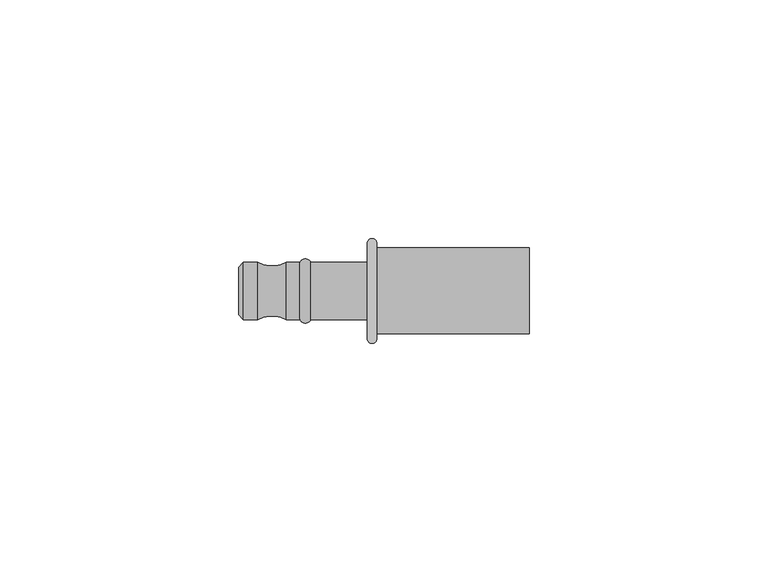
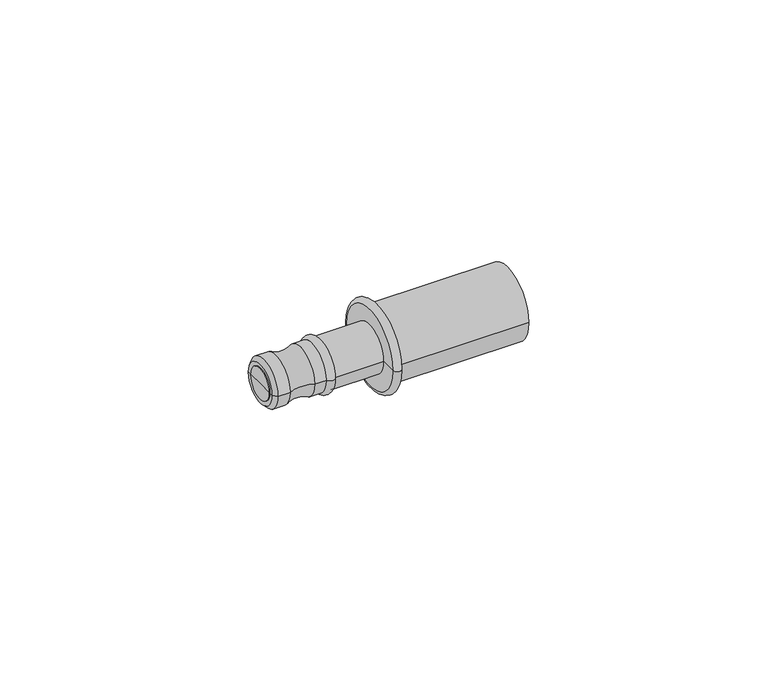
"""IFC4 building model written with IfcOpenShell, lengths in millimetres: pipe fitting geometry, NLRS_50_PIF_UN_Geberit Mepla overgang naar Geberit Mapress, met insteekeinde_PRO_102866 : DN12-50 / d16-63 - OD."""

from ifc_helpers import new_model, si_unit, point, frame, origin, place, context, project, spatial, polyline, circle_curve, ellipse_curve, trimmed, source, transform, mapped, element, save
from ifc_brep_helpers import plane_surface, cylinder_surface, revolved_surface, advanced_brep


def pipe_fitting_58cf78d7(model_context):
    return source(origin(), model_context, "Body", "AdvancedBrep", [
        advanced_brep(
        [(30.5, -8.9736188, 0.0), (30.5, 9.0263812, 0.0), (30.5, 0.0263812, 0.0), (-1.5, -8.9736188, 0.0), (-1.5, 9.0263812, 0.0), (-1.5, -3.9472376, 0.0), (-1.5, 4.0, 0.0), (-30.5, -3.9472376, 0.0), (-30.5, 4.0, 0.0), (-30.5, 0.0263812, 0.0)],
        [
            (0, 1, circle_curve(frame((30.5, 0.0263812, 0.0), z_axis=(1.0, 0.0, 0.0), x_axis=(0.0, 1.0000000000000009, 0.0)), 9.0)),
            (1, 2),
            (2, 0),
            (1, 0, circle_curve(frame((30.5, 0.0263812, 0.0), z_axis=(1.0, 0.0, 0.0), x_axis=(0.0, 1.0000000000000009, 0.0)), 9.0)),
            (3, 4, circle_curve(frame((-1.5, 0.0263812, 0.0), z_axis=(1.0, 0.0, 0.0), x_axis=(0.0, 1.0000000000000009, 0.0)), 9.0)),
            (4, 1),
            (0, 3),
            (4, 3, circle_curve(frame((-1.5, 0.0263812, 0.0), z_axis=(1.0, 0.0, 0.0), x_axis=(0.0, 1.0000000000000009, 0.0)), 9.0)),
            (5, 6, circle_curve(frame((-1.5, 0.0263812, 0.0), z_axis=(1.0, 0.0, 0.0), x_axis=(0.0, 1.0000000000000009, 0.0)), 3.9736188)),
            (6, 4),
            (3, 5),
            (6, 5, circle_curve(frame((-1.5, 0.0263812, 0.0), z_axis=(1.0, 0.0, 0.0), x_axis=(0.0, 1.0000000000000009, 0.0)), 3.9736188)),
            (7, 8, circle_curve(frame((-30.5, 0.0263812, 0.0), z_axis=(1.0, 0.0, 0.0), x_axis=(0.0, 1.0000000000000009, 0.0)), 3.9736188)),
            (8, 6),
            (5, 7),
            (8, 7, circle_curve(frame((-30.5, 0.0263812, 0.0), z_axis=(1.0, 0.0, 0.0), x_axis=(0.0, 1.0000000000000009, 0.0)), 3.9736188)),
            (9, 8),
            (7, 9),
        ],
        [
            plane_surface(frame((30.5, 0.0263812, 0.0), z_axis=(1.0, 0.0, 0.0), x_axis=(0.0, 1.0, 0.0))),
            cylinder_surface(frame((-33.4422681, 0.0263812, 0.0), z_axis=(-1.0000000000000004, 0.0, 0.0), x_axis=(0.0, 1.0000000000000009, 0.0)), 9.0),
            plane_surface(frame((-1.5, 0.0263812, 0.0), z_axis=(-1.0, 0.0, 0.0), x_axis=(0.0, 1.0, 0.0))),
            cylinder_surface(frame((-33.4422681, 0.0263812, 0.0), z_axis=(-1.0000000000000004, 0.0, 0.0), x_axis=(0.0, 1.0000000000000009, 0.0)), 3.9736188),
            plane_surface(frame((-30.5, 0.0263812, 0.0), z_axis=(-1.0, 0.0, 0.0), x_axis=(0.0, 1.0, 0.0))),
        ],
        [
            (0, [[1, 2, 3]]),
            (0, [[4, -3, -2]]),
            (1, [[5, 6, -1, 7]]),
            (1, [[8, -7, -4, -6]]),
            (2, [[9, 10, -5, 11]]),
            (2, [[12, -11, -8, -10]]),
            (3, [[13, 14, -9, 15]]),
            (3, [[16, -15, -12, -14]]),
            (4, [[17, -13, 18]]),
            (4, [[-18, -16, -17]]),
        ],
    ),
        advanced_brep(
        [(-30.5, 0.0, 0.0), (-30.5, 5.0, 0.0), (-30.5, -5.0, 0.0), (-1.5, -10.0, 0.0), (-1.5, 10.0, 0.0), (-1.5, 0.0, 0.0), (-3.5, -10.0, 0.0), (-3.5, 10.0, 0.0), (-3.5, -6.0, 0.0), (-3.5, 6.0, 0.0), (-15.381966, -6.0, 0.0), (-15.381966, 6.0, 0.0), (-17.618034, -6.0, 0.0), (-17.618034, 6.0, 0.0), (-20.4414451, -6.0, 0.0), (-20.4414451, 6.0, 0.0), (-26.4892433, -6.0, 0.0), (-26.4892433, 6.0, 0.0), (-29.5, -6.0, 0.0), (-29.5, 6.0, 0.0)],
        [
            (0, 1),
            (1, 2, circle_curve(frame((-30.5, 0.0, 0.0), z_axis=(-1.0, 0.0, 0.0), x_axis=(0.0, 1.0, 0.0)), 5.0)),
            (2, 0),
            (2, 1, circle_curve(frame((-30.5, 0.0, 0.0), z_axis=(-1.0, 0.0, 0.0), x_axis=(0.0, 1.0, 0.0)), 5.0)),
            (3, 4, circle_curve(frame((-1.5, 0.0, 0.0), z_axis=(1.0, 0.0, 0.0), x_axis=(0.0, 1.0, 0.0)), 10.0)),
            (4, 5),
            (5, 3),
            (4, 3, circle_curve(frame((-1.5, 0.0, 0.0), z_axis=(1.0, 0.0, 0.0), x_axis=(0.0, 1.0, 0.0)), 10.0)),
            (6, 7, circle_curve(frame((-3.5, 0.0, 0.0), z_axis=(1.0, 0.0, 0.0), x_axis=(0.0, 1.0, 0.0)), 10.0)),
            (7, 4, circle_curve(frame((-2.5, 10.0, 0.0), z_axis=(0.0, 0.0, -1.0), x_axis=(1.0, 0.0, 0.0)), 1.0)),
            (3, 6, circle_curve(frame((-2.5, -10.0, 0.0), z_axis=(0.0, 0.0, -1.0), x_axis=(1.0, 0.0, 0.0)), 1.0)),
            (7, 6, circle_curve(frame((-3.5, 0.0, 0.0), z_axis=(1.0, 0.0, 0.0), x_axis=(0.0, 1.0, 0.0)), 10.0)),
            (8, 9, circle_curve(frame((-3.5, 0.0, 0.0), z_axis=(1.0, 0.0, 0.0), x_axis=(0.0, 1.0, 0.0)), 6.0)),
            (9, 7),
            (6, 8),
            (9, 8, circle_curve(frame((-3.5, 0.0, 0.0), z_axis=(1.0, 0.0, 0.0), x_axis=(0.0, 1.0, 0.0)), 6.0)),
            (10, 11, circle_curve(frame((-15.381966, 0.0, 0.0), z_axis=(1.0, 0.0, 0.0), x_axis=(0.0, 1.0, 0.0)), 6.0)),
            (11, 9),
            (8, 10),
            (11, 10, circle_curve(frame((-15.381966, 0.0, 0.0), z_axis=(1.0, 0.0, 0.0), x_axis=(0.0, 1.0, 0.0)), 6.0)),
            (12, 13, circle_curve(frame((-17.618034, 0.0, 0.0), z_axis=(1.0, 0.0, 0.0), x_axis=(0.0, 1.0, 0.0)), 6.0)),
            (13, 11, circle_curve(frame((-16.5, 5.4889209, 0.0), z_axis=(0.0, 0.0, -1.0), x_axis=(1.0, 0.0, 0.0)), 1.2293095)),
            (10, 12, circle_curve(frame((-16.5, -5.4889209, 0.0), z_axis=(0.0, 0.0, -1.0), x_axis=(1.0, 0.0, 0.0)), 1.2293095)),
            (13, 12, circle_curve(frame((-17.618034, 0.0, 0.0), z_axis=(1.0, 0.0, 0.0), x_axis=(0.0, 1.0, 0.0)), 6.0)),
            (14, 15, circle_curve(frame((-20.4414451, 0.0, 0.0), z_axis=(1.0, 0.0, 0.0), x_axis=(0.0, 1.0, 0.0)), 6.0)),
            (15, 13),
            (12, 14),
            (15, 14, circle_curve(frame((-20.4414451, 0.0, 0.0), z_axis=(1.0, 0.0, 0.0), x_axis=(0.0, 1.0, 0.0)), 6.0)),
            (16, 17, circle_curve(frame((-26.4892433, 0.0, 0.0), z_axis=(1.0, 0.0, 0.0), x_axis=(0.0, 1.0, 0.0)), 6.0)),
            (17, 15, circle_curve(frame((-23.4653442, 11.7319636, 0.0), z_axis=(0.0, 0.0, 1.0), x_axis=(1.0, 0.0, 0.0)), 6.4806923)),
            (14, 16, circle_curve(frame((-23.4653442, -11.7319636, 0.0), z_axis=(0.0, 0.0, 1.0), x_axis=(1.0, 0.0, 0.0)), 6.4806923)),
            (17, 16, circle_curve(frame((-26.4892433, 0.0, 0.0), z_axis=(1.0, 0.0, 0.0), x_axis=(0.0, 1.0, 0.0)), 6.0)),
            (18, 19, circle_curve(frame((-29.5, 0.0, 0.0), z_axis=(1.0, 0.0, 0.0), x_axis=(0.0, 1.0, 0.0)), 6.0)),
            (19, 17),
            (16, 18),
            (19, 18, circle_curve(frame((-29.5, 0.0, 0.0), z_axis=(1.0, 0.0, 0.0), x_axis=(0.0, 1.0, 0.0)), 6.0)),
            (1, 19),
            (18, 2),
        ],
        [
            plane_surface(frame((-30.5, 0.0, 0.0), z_axis=(-1.0, 0.0, 0.0), x_axis=(0.0, 1.0, 0.0))),
            plane_surface(frame((-1.5, 0.0, 0.0), z_axis=(1.0, 0.0, 0.0), x_axis=(0.0, 1.0, 0.0))),
            revolved_surface(trimmed(ellipse_curve(frame((-2.5, 10.0, 0.0), z_axis=(0.0, 0.0, 1.0), x_axis=(1.0, 0.0, 0.0)), 1.0, 1.0), [point((-1.5, 10.0, 0.0))], [point((-3.5, 10.0, 0.0))], True, "CARTESIAN"), (-38.545876, 0.0, 0.0), (-1.0, 0.0, 0.0)),
            plane_surface(frame((-3.5, 0.0, 0.0), z_axis=(-1.0, 0.0, 0.0), x_axis=(0.0, 1.0, 0.0))),
            cylinder_surface(frame((-38.545876, 0.0, 0.0), z_axis=(-1.0, 0.0, 0.0), x_axis=(0.0, 1.0, 0.0)), 6.0),
            revolved_surface(trimmed(ellipse_curve(frame((-16.5, 5.4889209, 0.0), z_axis=(0.0, 0.0, 1.0), x_axis=(1.0, 0.0, 0.0)), 1.2293095, 1.2293095), [point((-15.381966, 6.0, 0.0))], [point((-17.618034, 6.0, 0.0))], True, "CARTESIAN"), (-38.545876, 0.0, 0.0), (-1.0, 0.0, 0.0)),
            revolved_surface(trimmed(ellipse_curve(frame((-23.4653442, 11.7319636, 0.0), z_axis=(0.0, 0.0, -1.0), x_axis=(1.0, 0.0, 0.0)), 6.4806923, 6.4806923), [point((-20.4414451, 6.0, 0.0))], [point((-26.4892433, 6.0, 0.0))], True, "CARTESIAN"), (-38.545876, 0.0, 0.0), (-1.0, 0.0, 0.0)),
            revolved_surface(polyline([(-29.5, 6.0, 0.0), (-30.5, 5.0, 0.0)]), (-38.545876, 0.0, 0.0), (-1.0, 0.0, 0.0)),
        ],
        [
            (0, [[1, 2, 3]]),
            (0, [[-3, 4, -1]]),
            (1, [[5, 6, 7]]),
            (1, [[8, -7, -6]]),
            (2, [[9, 10, -5, 11]]),
            (2, [[12, -11, -8, -10]]),
            (3, [[13, 14, -9, 15]]),
            (3, [[16, -15, -12, -14]]),
            (4, [[17, 18, -13, 19]]),
            (4, [[20, -19, -16, -18]]),
            (5, [[21, 22, -17, 23]]),
            (5, [[24, -23, -20, -22]]),
            (4, [[25, 26, -21, 27]]),
            (4, [[28, -27, -24, -26]]),
            (6, [[29, 30, -25, 31]]),
            (6, [[32, -31, -28, -30]]),
            (4, [[33, 34, -29, 35]]),
            (4, [[36, -35, -32, -34]]),
            (7, [[-2, 37, -33, 38]]),
            (7, [[-4, -38, -36, -37]]),
        ],
    ),
    ])


if __name__ == "__main__":
    model = new_model("IFC4")
    model_context = context("Model", 3, world=origin())
    ifc_project = project(units=[si_unit("LENGTHUNIT", "METRE", prefix="MILLI")], contexts=[model_context])
    site = spatial("IfcSite", under=ifc_project)
    building = spatial("IfcBuilding", under=site)
    placement = place(None, origin())
    pipe_fitting_shape = pipe_fitting_58cf78d7(model_context)
    element("IfcPipeFitting", 1, ObjectType="NLRS_50_PIF_UN_Geberit Mepla overgang naar Geberit Mapress, met insteekeinde_PRO_102866 : DN12-50 / d16-63 - OD", at=placement, inside=building, context=model_context, shape_type="MappedRepresentation", body=[
        mapped(pipe_fitting_shape, transform((0.0, 0.0, 0.0), x_axis=(1.0, 0.0, 0.0), y_axis=(0.0, 1.0, 0.0), z_axis=(0.0, 0.0, 1.0))),
    ])
    save(model, "model.ifc")
